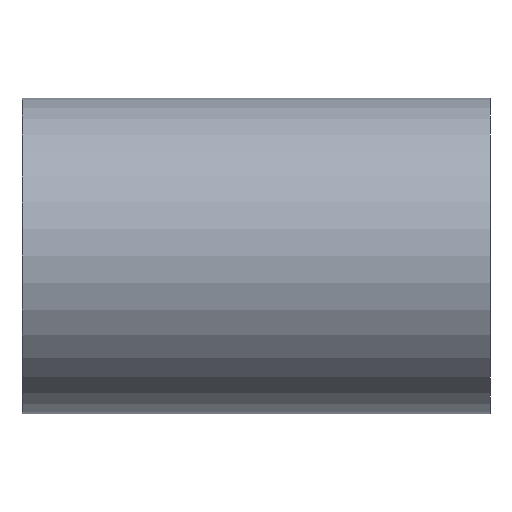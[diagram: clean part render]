
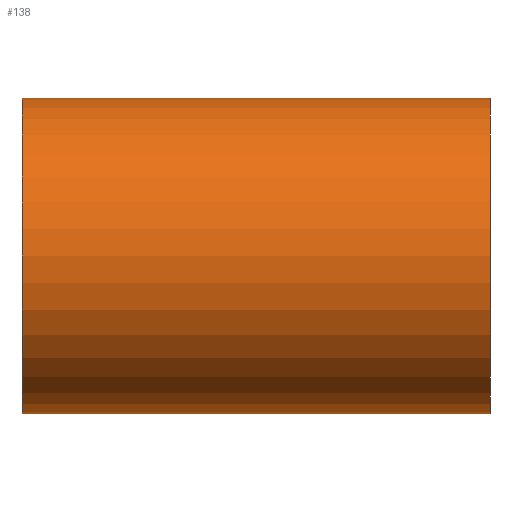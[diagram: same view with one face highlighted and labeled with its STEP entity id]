
A CAD part, front view. The second image highlights one B-rep face of the part: STEP entity #138.
In plain terms, the highlighted cylindrical face has radius 270 mm (diameter 540 mm), a partial arc.
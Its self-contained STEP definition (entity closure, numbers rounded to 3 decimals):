
#138=ADVANCED_FACE('',(#278),#279,.T.);
#278=FACE_OUTER_BOUND('',#429,.T.);
#279=CYLINDRICAL_SURFACE('',#430,270.0);
#429=EDGE_LOOP('',(#775,#776,#777,#778));
#430=AXIS2_PLACEMENT_3D('',#779,#780,#781);
#775=ORIENTED_EDGE('',*,*,#831,.T.);
#776=ORIENTED_EDGE('',*,*,#973,.F.);
#777=ORIENTED_EDGE('',*,*,#833,.T.);
#778=ORIENTED_EDGE('',*,*,#974,.F.);
#779=CARTESIAN_POINT('',(0.0,0.0,0.0));
#780=DIRECTION('',(1.0,0.0,0.0));
#781=DIRECTION('',(0.0,0.0,-1.0));
#831=EDGE_CURVE('',#978,#979,#980,.T.);
#833=EDGE_CURVE('',#983,#981,#984,.T.);
#973=EDGE_CURVE('',#983,#979,#1191,.T.);
#974=EDGE_CURVE('',#978,#981,#1192,.T.);
#978=VERTEX_POINT('',#1196);
#979=VERTEX_POINT('',#1197);
#980=LINE('',#1198,#1199);
#981=VERTEX_POINT('',#1200);
#983=VERTEX_POINT('',#1202);
#984=LINE('',#1203,#1204);
#1191=CIRCLE('',#1455,270.0);
#1192=CIRCLE('',#1456,270.0);
#1196=CARTESIAN_POINT('',(-400.0,0.0,-270.0));
#1197=CARTESIAN_POINT('',(400.0,0.0,-270.0));
#1198=CARTESIAN_POINT('',(0.0,0.,-270.0));
#1199=VECTOR('',#1459,1.0);
#1200=CARTESIAN_POINT('',(-400.0,0.,270.0));
#1202=CARTESIAN_POINT('',(400.0,0.,270.0));
#1203=CARTESIAN_POINT('',(0.0,0.,270.0));
#1204=VECTOR('',#1463,1.0);
#1455=AXIS2_PLACEMENT_3D('',#1682,#1683,#1684);
#1456=AXIS2_PLACEMENT_3D('',#1685,#1686,#1687);
#1459=DIRECTION('',(1.0,0.0,0.0));
#1463=DIRECTION('',(-1.0,-0.0,-0.0));
#1682=CARTESIAN_POINT('',(400.0,0.0,0.0));
#1683=DIRECTION('',(1.0,0.0,0.0));
#1684=DIRECTION('',(0.0,0.0,-1.0));
#1685=CARTESIAN_POINT('',(-400.0,0.0,0.0));
#1686=DIRECTION('',(-1.0,0.0,0.0));
#1687=DIRECTION('',(0.0,0.0,-1.0));
